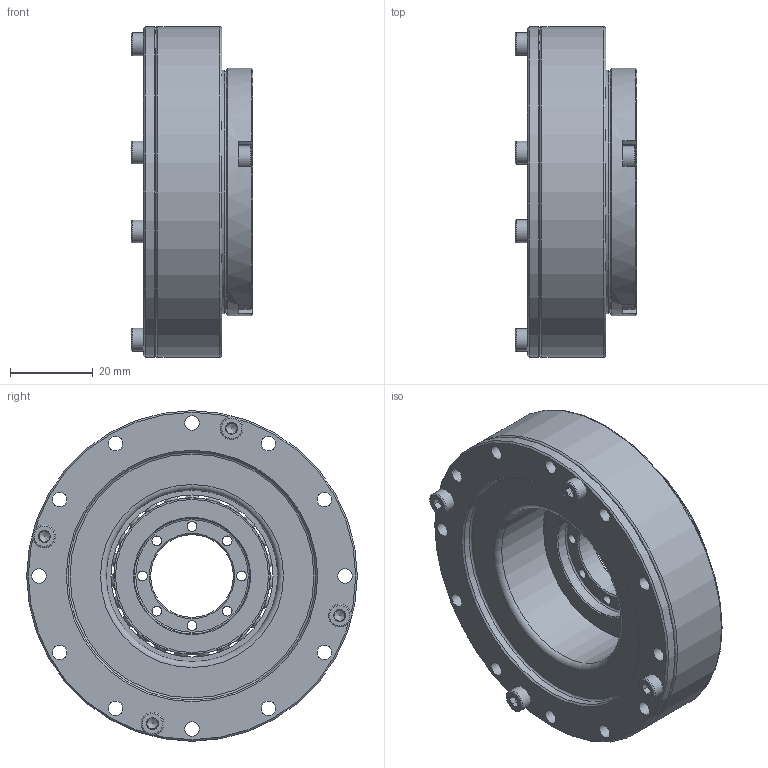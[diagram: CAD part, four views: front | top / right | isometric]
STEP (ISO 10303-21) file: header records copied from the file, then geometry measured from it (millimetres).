
FILE_DESCRIPTION(/* description */ (''),/* implementation_level */ '2;1');
FILE_NAME(/* name */ 'Getriebeset_HTG_Plus_BG43_HS.stp',/* time_stamp */ '2026-03-10T08:44:32+01:00',/* author */ (''),/* organization */ (''),/* preprocessor_version */ 'ST-DEVELOPER v19.4',/* originating_system */ 'SIEMENS PLM Software NX2212.9120',/* authorisation */ '');
FILE_SCHEMA (('AUTOMOTIVE_DESIGN { 1 0 10303 214 3 1 1 1 }'));
Length unit declared in the file: millimetre
Products named in the file (1): Getriebeset_HTG_Plus_BG43_HS
Bounding box: 29.5 x 80 x 80 mm (x, y, z)
Volume: 72342.8 mm3; surface area: 63003.4 mm2
Topology: 43 solids, 43 shells, 588 faces, 1495 edges, 964 vertices
Faces by surface type: cylinder 172, plane 166, cone 143, torus 70, sphere 35, bspline 2
Full cylindrical faces by diameter (mm): 2.4 x8, 2.6 x24, 3 x8, 3.5 x48, 5.5 x8, 20 x1, 28 x1, 30 x2, 32.9 x3, 37 x1, 39.2 x2, 41.5 x2, 42.3 x1, 43 x1, 43.8 x1, 45.5 x1, 47 x2, 54.5 x1, 59 x2, 59.8 x2, 60 x2, 61.5 x2, 64 x1, 66.7 x1, 68 x2, 68.1 x1, 80 x2
Entity records: 17992 total; most frequent: CARTESIAN_POINT 5495, DIRECTION 2496, ORIENTED_EDGE 2026, AXIS2_PLACEMENT_3D 1170, EDGE_CURVE 1013, EDGE_LOOP 968, VERTEX_POINT 816, FACE_BOUND 767
